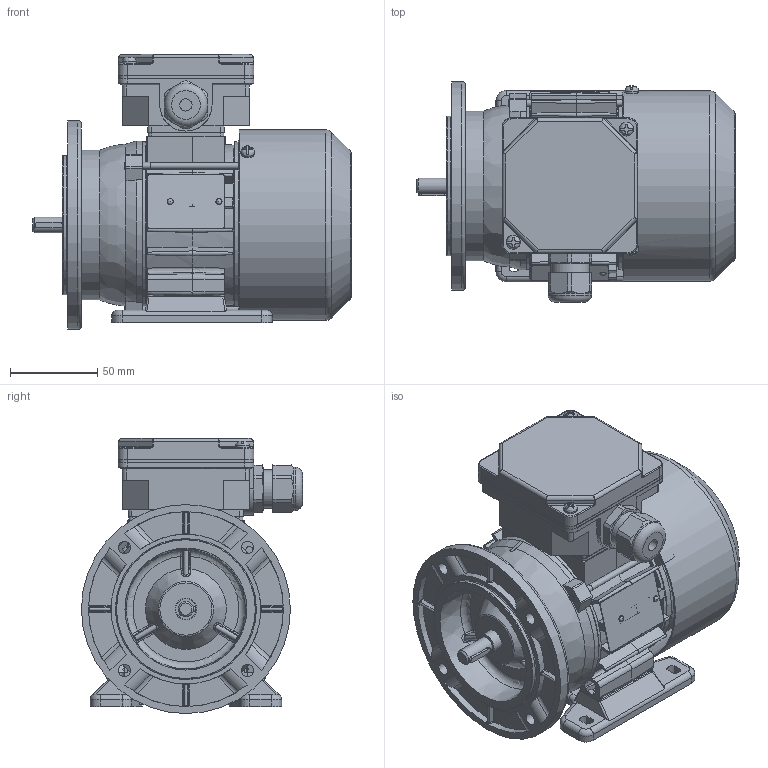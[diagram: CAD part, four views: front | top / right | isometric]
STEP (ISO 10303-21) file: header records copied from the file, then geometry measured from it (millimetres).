
FILE_DESCRIPTION( ( 'Unknown' ), '1' );
FILE_NAME( 'G:/Poczta Tk-1/STP/w.m.56/Sh56/SLh56-A.stp', 'Unknown', ( 'K. Szlosek' ), ( 'BESEL S.A.' ), 'PSStep 17.0.49', 'Unknown', ' ' );
FILE_SCHEMA( ( 'AUTOMOTIVE_DESIGN { 1 0 10303 214 1 1 1 1 }' ) );
Length unit declared in the file: millimetre
Products named in the file (29): Assem1; K4-2320 Uszczelka nr 1 Sh71,80; K1-0512 Tarcza kołnierzowa B5  SKg56-..; K3-9987 kadłub ze stojanem Sh56-B; K3-2193 Tarcza łożyskowa P Sg56-2..; K3-9990 wał Sh56-B; K2-0860 Pokrywka skrzynki zaciskowej; Wpust A3x3x16; K4-2820 Uszczelka nr 2 Sh71,80; Wkręt samogwintujący M4x8; Wkręt samogwintujący M4x16; K2-0879 Przewietrznik Sg56; Nitokołek A 2x6; K3-11363 Osłona przewietrznika Sh 56_A; K1-0484 Łapa Sg56-.. w. robocza; K2-0859 Podstawa skrzynki 6-cio zaciskowej; Śruba ściągająca E_M4x75; Tabliczka znamionowa 32x44; Łożysko 6201; Dławnica M20x1,5
Assembly tree (44 placements, depth 2):
  Assem1
    K4-2320 Uszczelka nr 1 Sh71,80
    K1-0512 Tarcza kołnierzowa B5  SKg56-..
    K3-9987 kadłub ze stojanem Sh56-B
    K3-2193 Tarcza łożyskowa P Sg56-2..
    K3-9990 wał Sh56-B
    K2-0860 Pokrywka skrzynki zaciskowej
    Wpust A3x3x16
    K4-2820 Uszczelka nr 2 Sh71,80
    Wkręt samogwintujący M4x8  x3
    Wkręt samogwintujący M4x16  x2
    K2-0879 Przewietrznik Sg56
    Nitokołek A 2x6  x2
    K3-11363 Osłona przewietrznika Sh 56_A
    K1-0484 Łapa Sg56-.. w. robocza
    K2-0859 Podstawa skrzynki 6-cio zaciskowej
    Śruba ściągająca E_M4x75  x3
    Tabliczka znamionowa 32x44
    Łożysko 6201  x2
    Łożysko 6201  x2
    Łożysko 6201  x2
    Łożysko 6201  x2
    Łożysko 6201  x2
    Łożysko 6201  x2
    Łożysko 6201  x2
    Łożysko 6201  x2
    Łożysko 6201  x2
    Łożysko 6201  x2
    Dławnica M20x1,5
Bounding box: 183 x 127 x 158 mm (x, y, z)
Volume: 484901.9 mm3; surface area: 317259.8 mm2
Topology: 44 solids, 60 shells, 1923 faces, 5179 edges, 3339 vertices
Faces by surface type: plane 979, cylinder 583, bspline 117, torus 106, cone 104, sphere 34
Full cylindrical faces by diameter (mm): 2 x2, 2.4 x2, 3.3 x3, 3.7 x10, 4 x8, 4.5 x4, 4.6 x1, 4.8 x4, 5 x4, 5.8 x4, 7 x8, 8 x6, 9 x1, 10.9 x1, 11 x1, 11.5 x1, 11.8 x2, 12 x4, 12.4 x2, 15.5 x1, 16 x1, 16.1 x1, 17 x2, 18 x1, 18.376 x1, 18.38 x1, 18.52 x4, 20 x1, 22.3 x1, 24 x2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
Entity records: 85215 total; most frequent: CARTESIAN_POINT 27379, ORIENTED_EDGE 8976, DIRECTION 8876, EDGE_CURVE 4488, AXIS2_PLACEMENT_3D 3280, VERTEX_POINT 3022, LINE 2316, VECTOR 2316
